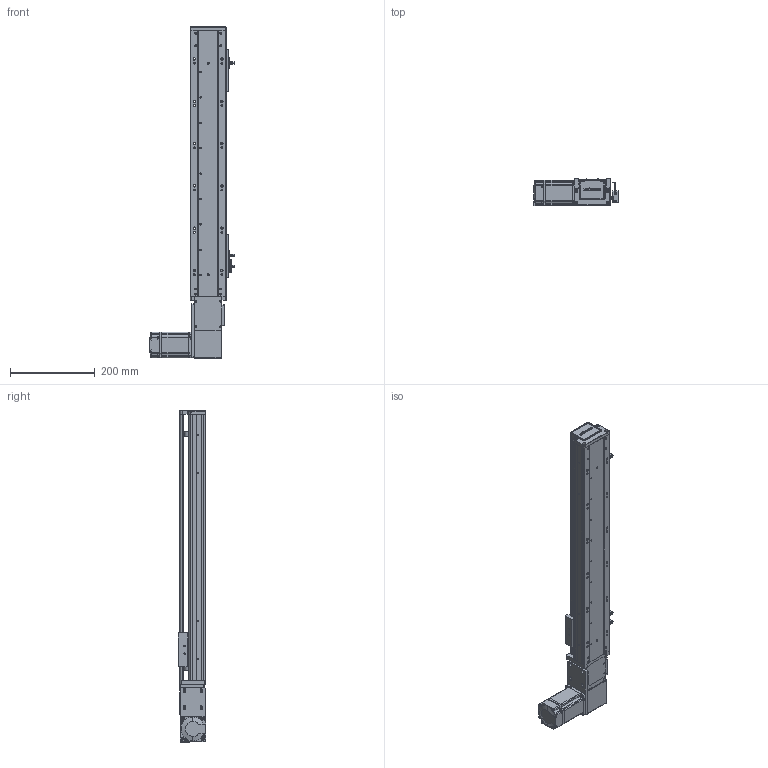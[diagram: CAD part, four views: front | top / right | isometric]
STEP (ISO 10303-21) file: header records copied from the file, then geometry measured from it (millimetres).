
FILE_DESCRIPTION (( 'STEP AP203' ), '1' );
FILE_NAME ('RY80-T-300-LK.SLDASM_450.step', '2021-03-01T01:58:07', ( '盈信电脑' ), ( '东莞市道滘镇水果街19号' ), 'SwSTEP 2.0', 'SolidWorks 2012', '' );
FILE_SCHEMA (( 'CONFIG_CONTROL_DESIGN' ));
Length unit declared in the file: millimetre
Products named in the file (19): RY80-T-300-LK.SLDASM_450; 侂狟200W萇儂; RY80-T-M4蹟翐; RY80-T肮祭謫俋欶; RY80-T萇儂假蚾啣; 滅袉蝶18-10; RY80-T翋肮祭謫裔啣; 1; RY80-T粣創揤踡輸; RY80-T肮祭湍揤輸1; RY80俋离覜茼え; RY80-T-翋肮祭謫釱; RY80-T肮祭湍揤輸2; 672嫖萇羲壽假蚾釱; RY80-T綴裔啣; 覜茼ん672; RY80-T肮祭謫臏賑輸; RY80-T-300-LK倰第奻裔啣_450; RY80-T-300-LK倰第菁釱_450
Assembly tree (24 placements, depth 3):
  RY80-T-300-LK.SLDASM_450
    RY80-T-300-LK倰第菁釱_450
    RY80-T肮祭謫臏賑輸
    RY80-T-300-LK倰第奻裔啣_450
    RY80-T綴裔啣
    672嫖萇羲壽假蚾釱  x2
    覜茼ん672  x3
    RY80俋离覜茼え
    RY80-T-翋肮祭謫釱
    RY80-T肮祭湍揤輸1
    RY80-T肮祭湍揤輸2
    RY80-T粣創揤踡輸
    RY80-T翋肮祭謫裔啣  x2
    滅袉蝶18-10  x2
    侂狟200W萇儂
      1
    RY80-T肮祭謫俋欶
    RY80-T萇儂假蚾啣
    RY80-T-M4蹟翐  x2
Bounding box: 198.7 x 65 x 785 mm (x, y, z)
Volume: 1465555.2 mm3; surface area: 588743.7 mm2
Topology: 23 solids, 23 shells, 2404 faces, 6620 edges, 4299 vertices
Faces by surface type: plane 1309, cylinder 891, cone 148, bspline 56
Entity records: 75023 total; most frequent: CARTESIAN_POINT 17999, ORIENTED_EDGE 11684, DIRECTION 11006, EDGE_CURVE 5842, VERTEX_POINT 3840, AXIS2_PLACEMENT_3D 3679, LINE 3648, VECTOR 3648
